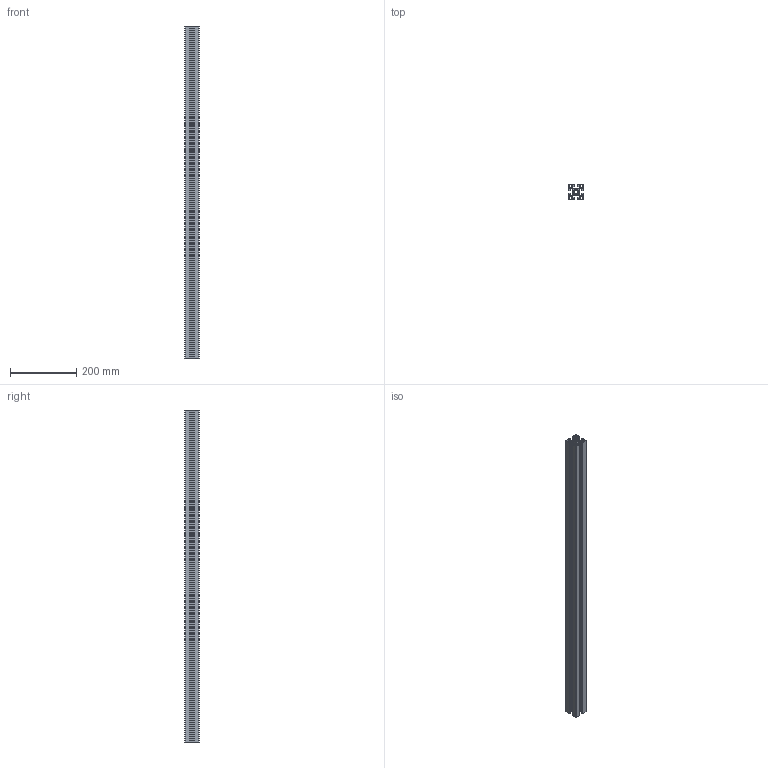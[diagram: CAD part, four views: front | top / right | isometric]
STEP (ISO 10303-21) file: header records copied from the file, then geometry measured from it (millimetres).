
FILE_DESCRIPTION (( 'STEP AP214' ), '1' );
FILE_NAME ('555H Êîíñòðóêöèîííûé ïðîôèëü 45õ45H.STEP', '2014-12-19T10:08:51', ( 'XTreme.ws' ), ( 'XTreme.ws' ), 'SwSTEP 2.0', 'SolidWorks 2014', '' );
FILE_SCHEMA (( 'AUTOMOTIVE_DESIGN' ));
Length unit declared in the file: millimetre
Products named in the file (2): 555H Êîíñòðóêöèîííûé ïðîôèëü 45õ45H
Bounding box: 45 x 45 x 1000 mm (x, y, z)
Volume: 779243.3 mm3; surface area: 575043.2 mm2
Topology: 1 solids, 1 shells, 278 faces, 828 edges, 552 vertices
Faces by surface type: plane 146, cylinder 132
Entity records: 9465 total; most frequent: CARTESIAN_POINT 1660, ORIENTED_EDGE 1656, DIRECTION 1652, EDGE_CURVE 828, VECTOR 564, LINE 564, VERTEX_POINT 552, AXIS2_PLACEMENT_3D 544
